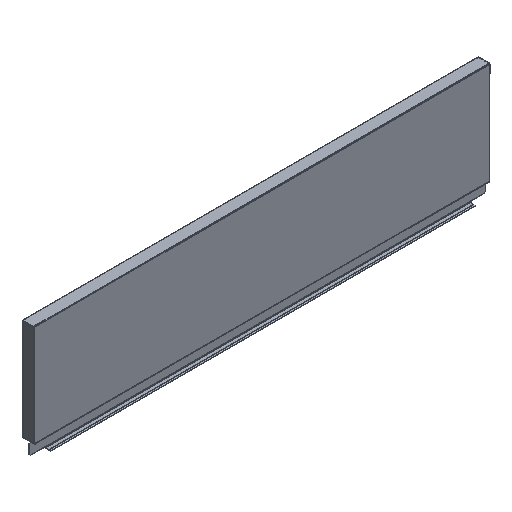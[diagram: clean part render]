
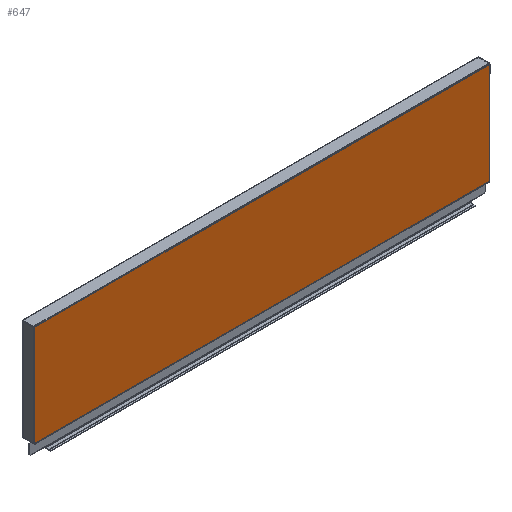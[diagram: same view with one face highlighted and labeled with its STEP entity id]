
A CAD part, isometric view. The second image highlights one B-rep face of the part: STEP entity #647.
In plain terms, the highlighted planar face has unit normal (0, -1, 0).
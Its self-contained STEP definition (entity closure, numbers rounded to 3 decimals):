
#35 = VERTEX_POINT ( 'NONE', #465 ) ;
#63 = VERTEX_POINT ( 'NONE', #456 ) ;
#94 = VERTEX_POINT ( 'NONE', #444 ) ;
#237 = DIRECTION ( 'NONE',  ( 0., 0., -1. ) ) ;
#249 = CARTESIAN_POINT ( 'NONE',  ( -304., -6., 170.385 ) ) ;
#259 = DIRECTION ( 'NONE',  ( 0., 0., -1. ) ) ;
#299 = DIRECTION ( 'NONE',  ( 1., 0., 0. ) ) ;
#300 = DIRECTION ( 'NONE',  ( 0., -1., 0. ) ) ;
#301 = CARTESIAN_POINT ( 'NONE',  ( -305., -6., 17. ) ) ;
#302 = PLANE ( 'NONE',  #1289 ) ;
#313 = CARTESIAN_POINT ( 'NONE',  ( -304., -6., 170.385 ) ) ;
#331 = CARTESIAN_POINT ( 'NONE',  ( -303.5, -6., 17. ) ) ;
#337 = CARTESIAN_POINT ( 'NONE',  ( -304., -6., 17.5 ) ) ;
#355 = CARTESIAN_POINT ( 'NONE',  ( 303.5, -6., 17.5 ) ) ;
#359 = CARTESIAN_POINT ( 'NONE',  ( -304., -6., 151.5 ) ) ;
#361 = CARTESIAN_POINT ( 'NONE',  ( 304., -6., 152. ) ) ;
#363 = CARTESIAN_POINT ( 'NONE',  ( 303.5, -6., 17. ) ) ;
#368 = CARTESIAN_POINT ( 'NONE',  ( 304., -6., 151.5 ) ) ;
#424 = DIRECTION ( 'NONE',  ( 1., 0., 0. ) ) ;
#444 = CARTESIAN_POINT ( 'NONE',  ( -303.5, -6., 17.5 ) ) ;
#456 = CARTESIAN_POINT ( 'NONE',  ( 304., -6., 17.5 ) ) ;
#465 = CARTESIAN_POINT ( 'NONE',  ( -304., -6., 152. ) ) ;
#470 = CARTESIAN_POINT ( 'NONE',  ( -305., -6., 17.5 ) ) ;
#481 = DIRECTION ( 'NONE',  ( 0., 0., -1. ) ) ;
#485 = CARTESIAN_POINT ( 'NONE',  ( -303.5, -6., 17.5 ) ) ;
#489 = DIRECTION ( 'NONE',  ( 1., 0., 0. ) ) ;
#495 = CARTESIAN_POINT ( 'NONE',  ( -305., -6., 17. ) ) ;
#496 = VERTEX_POINT ( 'NONE', #368 ) ;
#497 = DIRECTION ( 'NONE',  ( 0., 0., 1. ) ) ;
#498 = CARTESIAN_POINT ( 'NONE',  ( 303.5, -6., 15.3 ) ) ;
#500 = DIRECTION ( 'NONE',  ( 1., 0., 0. ) ) ;
#501 = CARTESIAN_POINT ( 'NONE',  ( 303.5, -6., 17.5 ) ) ;
#502 = DIRECTION ( 'NONE',  ( 0., 0., -1. ) ) ;
#503 = CARTESIAN_POINT ( 'NONE',  ( 304., -6., 170.385 ) ) ;
#506 = DIRECTION ( 'NONE',  ( 0., 0., -1. ) ) ;
#507 = CARTESIAN_POINT ( 'NONE',  ( 304., -6., 170.385 ) ) ;
#508 = DIRECTION ( 'NONE',  ( 1., 0., 0. ) ) ;
#509 = CARTESIAN_POINT ( 'NONE',  ( -305., -6., 152. ) ) ;
#512 = VERTEX_POINT ( 'NONE', #363 ) ;
#514 = VERTEX_POINT ( 'NONE', #361 ) ;
#516 = VERTEX_POINT ( 'NONE', #359 ) ;
#520 = VERTEX_POINT ( 'NONE', #355 ) ;
#538 = VERTEX_POINT ( 'NONE', #337 ) ;
#544 = VERTEX_POINT ( 'NONE', #331 ) ;
#647 = ADVANCED_FACE ( 'NONE', ( #1996 ), #302, .T. ) ;
#869 = EDGE_LOOP ( 'NONE', ( #1971, #1970, #1969, #1968, #1967, #1966, #1965, #1964, #1963, #1962 ) ) ;
#1244 = EDGE_CURVE ( 'NONE', #35, #516, #2382, .T. ) ;
#1245 = EDGE_CURVE ( 'NONE', #35, #514, #2384, .T. ) ;
#1246 = EDGE_CURVE ( 'NONE', #514, #496, #2386, .T. ) ;
#1247 = EDGE_CURVE ( 'NONE', #496, #63, #2388, .T. ) ;
#1248 = EDGE_CURVE ( 'NONE', #520, #63, #2390, .T. ) ;
#1249 = EDGE_CURVE ( 'NONE', #512, #520, #2392, .T. ) ;
#1250 = EDGE_CURVE ( 'NONE', #544, #512, #2394, .T. ) ;
#1251 = EDGE_CURVE ( 'NONE', #94, #544, #2396, .T. ) ;
#1252 = EDGE_CURVE ( 'NONE', #538, #94, #2398, .T. ) ;
#1257 = EDGE_CURVE ( 'NONE', #516, #538, #2405, .T. ) ;
#1289 = AXIS2_PLACEMENT_3D ( 'NONE', #301, #300, #299 ) ;
#1962 = ORIENTED_EDGE ( 'NONE', *, *, #1244, .T. ) ;
#1963 = ORIENTED_EDGE ( 'NONE', *, *, #1245, .F. ) ;
#1964 = ORIENTED_EDGE ( 'NONE', *, *, #1246, .F. ) ;
#1965 = ORIENTED_EDGE ( 'NONE', *, *, #1247, .F. ) ;
#1966 = ORIENTED_EDGE ( 'NONE', *, *, #1248, .T. ) ;
#1967 = ORIENTED_EDGE ( 'NONE', *, *, #1249, .T. ) ;
#1968 = ORIENTED_EDGE ( 'NONE', *, *, #1250, .T. ) ;
#1969 = ORIENTED_EDGE ( 'NONE', *, *, #1251, .T. ) ;
#1970 = ORIENTED_EDGE ( 'NONE', *, *, #1252, .T. ) ;
#1971 = ORIENTED_EDGE ( 'NONE', *, *, #1257, .T. ) ;
#1996 = FACE_OUTER_BOUND ( 'NONE', #869, .T. ) ;
#2382 = LINE ( 'NONE', #313, #2383 ) ;
#2383 = VECTOR ( 'NONE', #259, 1000. ) ;
#2384 = LINE ( 'NONE', #509, #2385 ) ;
#2385 = VECTOR ( 'NONE', #508, 1000. ) ;
#2386 = LINE ( 'NONE', #507, #2387 ) ;
#2387 = VECTOR ( 'NONE', #506, 1000. ) ;
#2388 = LINE ( 'NONE', #503, #2389 ) ;
#2389 = VECTOR ( 'NONE', #502, 1000. ) ;
#2390 = LINE ( 'NONE', #501, #2391 ) ;
#2391 = VECTOR ( 'NONE', #500, 1000. ) ;
#2392 = LINE ( 'NONE', #498, #2393 ) ;
#2393 = VECTOR ( 'NONE', #497, 1000. ) ;
#2394 = LINE ( 'NONE', #495, #2395 ) ;
#2395 = VECTOR ( 'NONE', #489, 1000. ) ;
#2396 = LINE ( 'NONE', #485, #2397 ) ;
#2397 = VECTOR ( 'NONE', #481, 1000. ) ;
#2398 = LINE ( 'NONE', #470, #2399 ) ;
#2399 = VECTOR ( 'NONE', #424, 1000. ) ;
#2405 = LINE ( 'NONE', #249, #2407 ) ;
#2407 = VECTOR ( 'NONE', #237, 1000. ) ;
